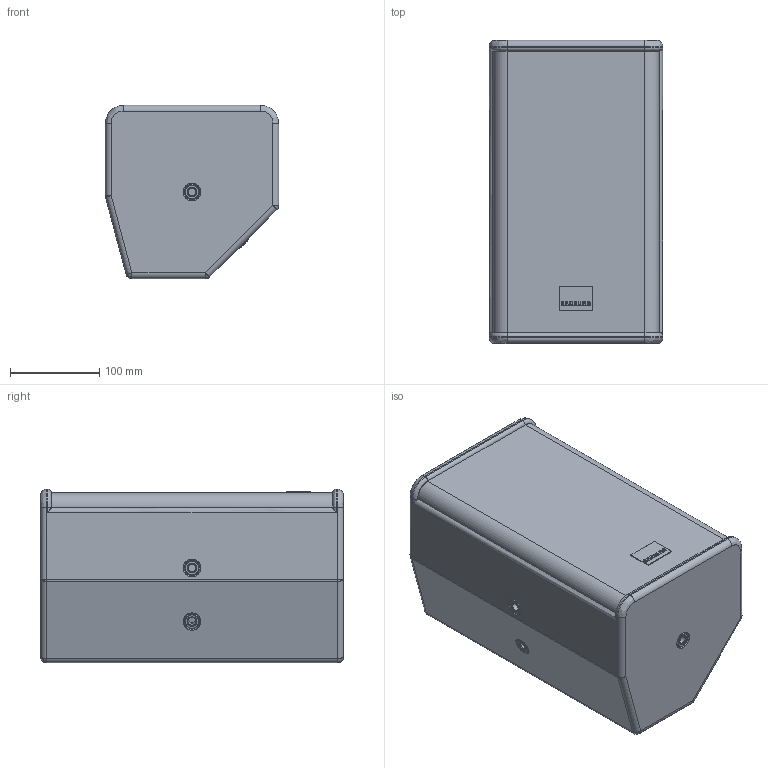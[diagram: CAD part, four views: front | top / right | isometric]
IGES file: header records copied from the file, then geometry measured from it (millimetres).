
Start section: SolidWorks IGES file using analytic representation for surfaces
Global section: file name: C:\Dokumente und Einstellungen\PC_Fabian\Desktop\TS-Serie\Seeburg_TSNano.IGS; native system: SolidWorks 2009; preprocessor: SolidWorks 2009; author: PC_Fabian; date: 121017.135949; units: millimetre
Bounding box: 194 x 339 x 194 mm (x, y, z)
Surface area: 659558.4 mm2 (no closed solid volume)
Topology: 0 solids, 0 shells, 379 faces, 4107 edges, 4105 vertices
Faces by surface type: revolution 225, bspline 154
